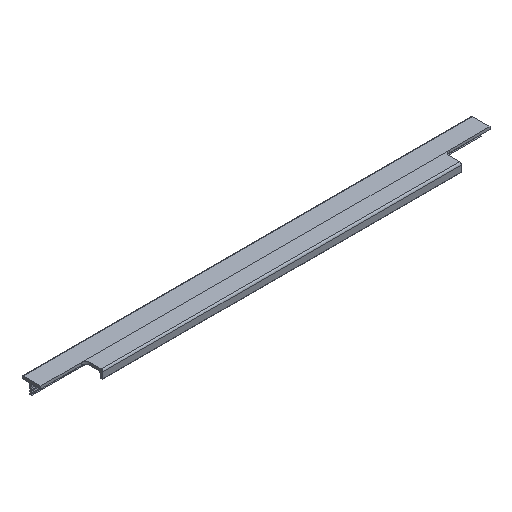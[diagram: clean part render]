
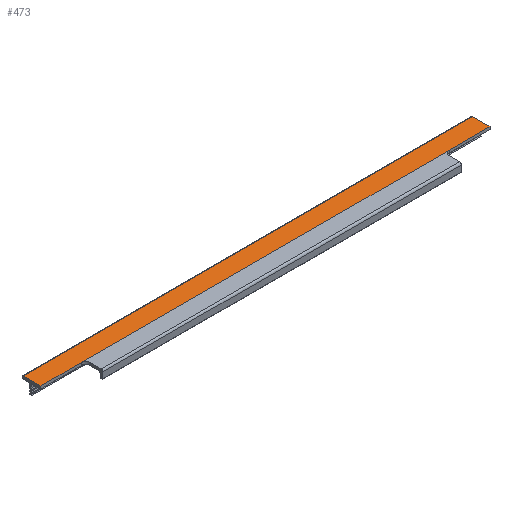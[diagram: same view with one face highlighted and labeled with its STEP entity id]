
A CAD part, isometric view. The second image highlights one B-rep face of the part: STEP entity #473.
In plain terms, the highlighted planar face has unit normal (0, 0, 1).
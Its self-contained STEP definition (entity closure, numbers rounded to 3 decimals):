
#261 = VERTEX_POINT( '', #731 );
#285 = VERTEX_POINT( '', #757 );
#377 = EDGE_CURVE( '', #581, #395, #857, .T. );
#391 = EDGE_CURVE( '', #501, #493, #873, .T. );
#395 = VERTEX_POINT( '', #877 );
#473 = ADVANCED_FACE( '', ( #962 ), #963, .T. );
#477 = EDGE_CURVE( '', #285, #261, #968, .T. );
#493 = VERTEX_POINT( '', #984 );
#501 = VERTEX_POINT( '', #992 );
#581 = VERTEX_POINT( '', #1083 );
#603 = EDGE_CURVE( '', #493, #395, #1107, .T. );
#679 = EDGE_CURVE( '', #501, #285, #1189, .T. );
#691 = EDGE_CURVE( '', #261, #581, #1201, .T. );
#731 = CARTESIAN_POINT( '', ( 202.5, -11., 3. ) );
#757 = CARTESIAN_POINT( '', ( 247.5, -11., 3. ) );
#857 = LINE( '', #1410, #1411 );
#873 = LINE( '', #1432, #1433 );
#877 = CARTESIAN_POINT( '', ( -247.5, -11., 3. ) );
#962 = FACE_OUTER_BOUND( '', #1562, .T. );
#963 = PLANE( '', #1563 );
#968 = LINE( '', #1569, #1570 );
#984 = CARTESIAN_POINT( '', ( -247.5, 8.286, 3. ) );
#992 = CARTESIAN_POINT( '', ( 247.5, 8.286, 3. ) );
#1083 = CARTESIAN_POINT( '', ( -202.5, -11., 3. ) );
#1107 = LINE( '', #1761, #1762 );
#1189 = LINE( '', #1873, #1874 );
#1201 = LINE( '', #1893, #1894 );
#1410 = CARTESIAN_POINT( '', ( 247.5, -11., 3. ) );
#1411 = VECTOR( '', #2087, 1. );
#1432 = CARTESIAN_POINT( '', ( 247.5, 8.286, 3. ) );
#1433 = VECTOR( '', #2106, 1. );
#1562 = EDGE_LOOP( '', ( #2202, #2203, #2204, #2205, #2206, #2207 ) );
#1563 = AXIS2_PLACEMENT_3D( '', #2208, #2209, #2210 );
#1569 = CARTESIAN_POINT( '', ( 247.5, -11., 3. ) );
#1570 = VECTOR( '', #2219, 1. );
#1761 = CARTESIAN_POINT( '', ( -247.5, 8.286, 3. ) );
#1762 = VECTOR( '', #2356, 1. );
#1873 = CARTESIAN_POINT( '', ( 247.5, 8.286, 3. ) );
#1874 = VECTOR( '', #2440, 1. );
#1893 = CARTESIAN_POINT( '', ( 247.5, -11., 3. ) );
#1894 = VECTOR( '', #2444, 1. );
#2087 = DIRECTION( '', ( -1., 0., 0. ) );
#2106 = DIRECTION( '', ( -1., 0., 0. ) );
#2202 = ORIENTED_EDGE( '', *, *, #603, .T. );
#2203 = ORIENTED_EDGE( '', *, *, #377, .F. );
#2204 = ORIENTED_EDGE( '', *, *, #691, .F. );
#2205 = ORIENTED_EDGE( '', *, *, #477, .F. );
#2206 = ORIENTED_EDGE( '', *, *, #679, .F. );
#2207 = ORIENTED_EDGE( '', *, *, #391, .T. );
#2208 = CARTESIAN_POINT( '', ( 247.5, 8.286, 3. ) );
#2209 = DIRECTION( '', ( 0., 0., 1. ) );
#2210 = DIRECTION( '', ( 0., 1., 0. ) );
#2219 = DIRECTION( '', ( -1., 0., 0. ) );
#2356 = DIRECTION( '', ( 0., -1., 0. ) );
#2440 = DIRECTION( '', ( 0., -1., 0. ) );
#2444 = DIRECTION( '', ( -1., 0., 0. ) );
